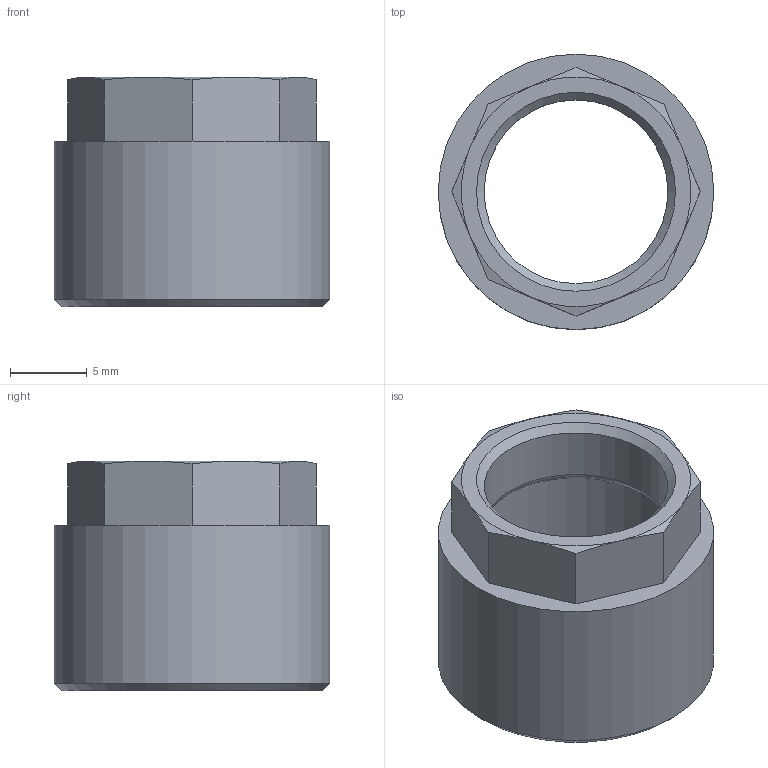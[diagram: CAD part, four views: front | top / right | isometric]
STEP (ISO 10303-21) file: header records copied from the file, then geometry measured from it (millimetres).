
FILE_DESCRIPTION(/* description */ (''),/* implementation_level */ '2;1');
FILE_NAME(/* name */ '17008_310_1210_M16X1_15.08.17',/* time_stamp */ '2017-08-15T10:47:57+02:00',/* author */ (''),/* organization */ (''),/* preprocessor_version */ 'ST-DEVELOPER v16.5',/* originating_system */ 'HiCAD 2016 2102.2 Build 618',/* authorisation */ '');
FILE_SCHEMA (('AUTOMOTIVE_DESIGN { 1 0 10303 214 1 1 1 1 }'));
Length unit declared in the file: millimetre
Products named in the file (2): Root; 17008
Assembly tree (1 placements, depth 2):
  Root
    17008
Bounding box: 18 x 18 x 15 mm (x, y, z)
Volume: 1212.2 mm3; surface area: 1680.9 mm2
Topology: 1 solids, 1 shells, 27 faces, 62 edges, 39 vertices
Faces by surface type: cone 12, plane 11, cylinder 3, torus 1
Full cylindrical faces by diameter (mm): 12 x1, 14.73 x1, 18 x1
Entity records: 1236 total; most frequent: DIRECTION 142, CARTESIAN_POINT 114, PRESENTATION_STYLE_ASSIGNMENT 101, COLOUR_RGB 101, DRAUGHTING_PRE_DEFINED_CURVE_FONT 100, CURVE_STYLE 100, OVER_RIDING_STYLED_ITEM 100, ORIENTED_EDGE 100
